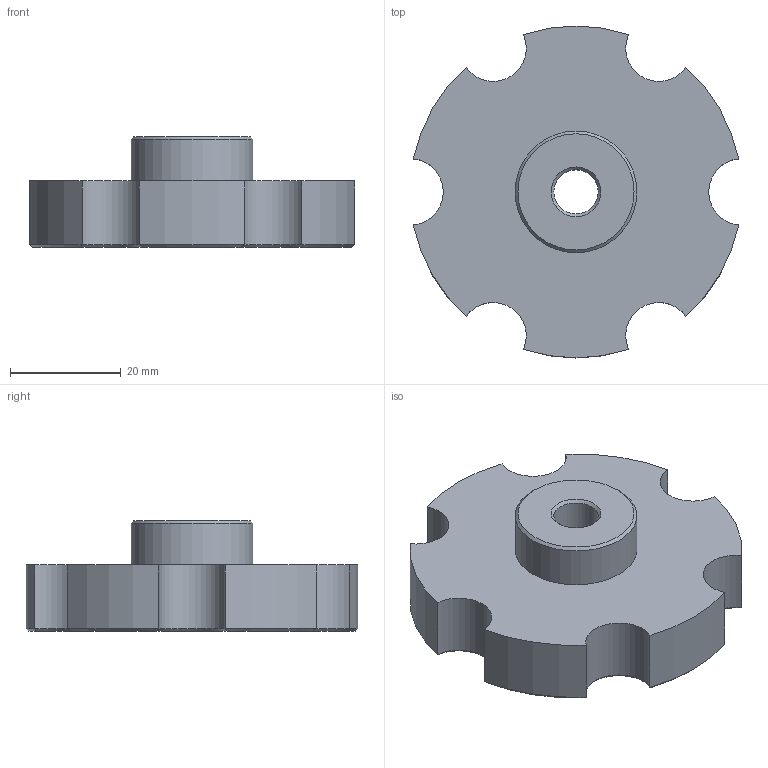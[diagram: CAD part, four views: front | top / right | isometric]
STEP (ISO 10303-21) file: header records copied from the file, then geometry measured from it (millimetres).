
FILE_DESCRIPTION(('Open CASCADE Model'),'2;1');
FILE_NAME('Open CASCADE Shape Model','2026-10-30T15:34:00',('Author'),( 'Open CASCADE'),'Open CASCADE STEP processor 7.9','Open CASCADE 7.9' ,'Unknown');
FILE_SCHEMA(('AUTOMOTIVE_DESIGN { 1 0 10303 214 1 1 1 1 }'));
Length unit declared in the file: millimetre
Products named in the file (2): 54332b68-d477-11f1-b4bb-35b8cdfd3aec; flywheel
Assembly tree (1 placements, depth 2):
  54332b68-d477-11f1-b4bb-35b8cdfd3aec
    flywheel
Bounding box: 58.8 x 60 x 20 mm (x, y, z)
Volume: 32023.8 mm3; surface area: 8526.9 mm2
Topology: 1 solids, 1 shells, 32 faces, 72 edges, 43 vertices
Faces by surface type: cone 15, cylinder 14, plane 3
Full cylindrical faces by diameter (mm): 8 x1, 22 x1
Entity records: 1978 total; most frequent: CARTESIAN_POINT 467, DIRECTION 301, ORIENTED_EDGE 144, PCURVE 144, DEFINITIONAL_REPRESENTATION 144, LINE 103, VECTOR 103, AXIS2_PLACEMENT_3D 89
